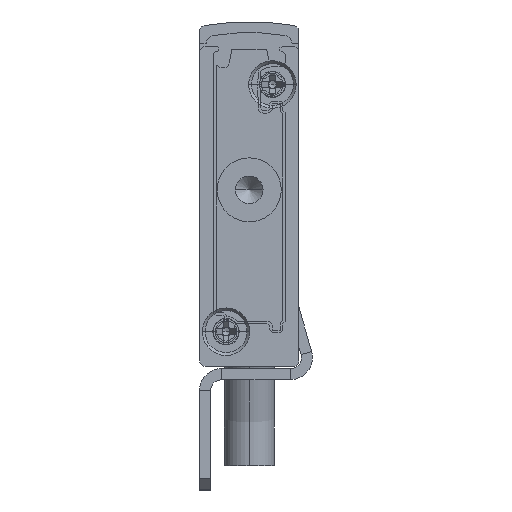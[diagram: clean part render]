
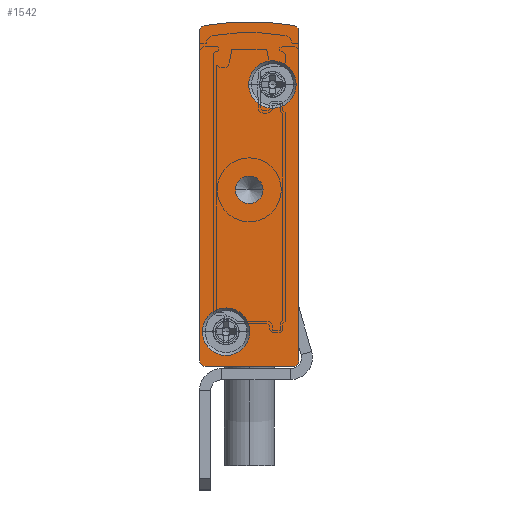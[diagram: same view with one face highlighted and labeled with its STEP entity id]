
A CAD part, front view. The second image highlights one B-rep face of the part: STEP entity #1542.
In plain terms, the highlighted planar face has unit normal (0, -1, 0).
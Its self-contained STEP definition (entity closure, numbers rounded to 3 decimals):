
#413 = FACE_BOUND ( 'NONE', #18770, .T. ) ;
#630 = CIRCLE ( 'NONE', #19547, 0.5 ) ;
#755 = DIRECTION ( 'NONE',  ( -1., 0., 0. ) ) ;
#900 = CARTESIAN_POINT ( 'NONE',  ( -3.25, -2.5, 16. ) ) ;
#1259 = AXIS2_PLACEMENT_3D ( 'NONE', #23008, #11794, #755 ) ;
#1266 = CIRCLE ( 'NONE', #3492, 0.5 ) ;
#1311 = DIRECTION ( 'NONE',  ( 0., 1., 0. ) ) ;
#1458 = EDGE_CURVE ( 'NONE', #12988, #5513, #1266, .T. ) ;
#1518 = DIRECTION ( 'NONE',  ( 1., 0., 0. ) ) ;
#1542 = ADVANCED_FACE ( 'NONE', ( #15726, #413, #6187, #12825 ), #23474, .F. ) ;
#1546 = DIRECTION ( 'NONE',  ( 0., -1., 0. ) ) ;
#1642 = CARTESIAN_POINT ( 'NONE',  ( -5.75, -2.5, 16. ) ) ;
#1732 = EDGE_CURVE ( 'NONE', #13496, #14290, #630, .T. ) ;
#1888 = CARTESIAN_POINT ( 'NONE',  ( -0.5, -2.5, 0. ) ) ;
#2137 = DIRECTION ( 'NONE',  ( 1., 0., 0. ) ) ;
#2429 = LINE ( 'NONE', #5009, #11639 ) ;
#2698 = VERTEX_POINT ( 'NONE', #1642 ) ;
#2838 = AXIS2_PLACEMENT_3D ( 'NONE', #22289, #5625, #16463 ) ;
#2847 = LINE ( 'NONE', #20296, #8942 ) ;
#3043 = VERTEX_POINT ( 'NONE', #18006 ) ;
#3073 = CIRCLE ( 'NONE', #5358, 0.5 ) ;
#3082 = AXIS2_PLACEMENT_3D ( 'NONE', #8901, #21906, #1518 ) ;
#3219 = ORIENTED_EDGE ( 'NONE', *, *, #18640, .T. ) ;
#3482 = ORIENTED_EDGE ( 'NONE', *, *, #11102, .F. ) ;
#3492 = AXIS2_PLACEMENT_3D ( 'NONE', #9630, #23142, #4614 ) ;
#3536 = VERTEX_POINT ( 'NONE', #7162 ) ;
#3668 = DIRECTION ( 'NONE',  ( 0., 1., 0. ) ) ;
#3998 = AXIS2_PLACEMENT_3D ( 'NONE', #11640, #13191, #2137 ) ;
#4218 = AXIS2_PLACEMENT_3D ( 'NONE', #14574, #9193, #12720 ) ;
#4374 = CIRCLE ( 'NONE', #1259, 1.25 ) ;
#4614 = DIRECTION ( 'NONE',  ( -1., 0., 0. ) ) ;
#4870 = VERTEX_POINT ( 'NONE', #16556 ) ;
#5009 = CARTESIAN_POINT ( 'NONE',  ( -8.5, -2.5, 0. ) ) ;
#5090 = DIRECTION ( 'NONE',  ( -1., 0., 0. ) ) ;
#5358 = AXIS2_PLACEMENT_3D ( 'NONE', #20319, #11050, #12905 ) ;
#5513 = VERTEX_POINT ( 'NONE', #8034 ) ;
#5625 = DIRECTION ( 'NONE',  ( 0., 1., 0. ) ) ;
#5744 = DIRECTION ( 'NONE',  ( -1., 0., 0. ) ) ;
#5923 = EDGE_CURVE ( 'NONE', #4870, #18754, #3073, .T. ) ;
#6187 = FACE_OUTER_BOUND ( 'NONE', #13954, .T. ) ;
#6333 = EDGE_CURVE ( 'NONE', #3043, #15289, #13698, .T. ) ;
#7162 = CARTESIAN_POINT ( 'NONE',  ( -8.75, -2.5, 3.15 ) ) ;
#8034 = CARTESIAN_POINT ( 'NONE',  ( -9., -2.5, 0.5 ) ) ;
#8611 = ORIENTED_EDGE ( 'NONE', *, *, #8745, .T. ) ;
#8745 = EDGE_CURVE ( 'NONE', #20437, #2698, #4374, .T. ) ;
#8867 = CARTESIAN_POINT ( 'NONE',  ( -9., -2.5, 30.402 ) ) ;
#8901 = CARTESIAN_POINT ( 'NONE',  ( -2.4, -2.5, 25.55 ) ) ;
#8942 = VECTOR ( 'NONE', #11018, 1000. ) ;
#8988 = EDGE_CURVE ( 'NONE', #12134, #13496, #12957, .T. ) ;
#9193 = DIRECTION ( 'NONE',  ( 0., -1., 0. ) ) ;
#9278 = ORIENTED_EDGE ( 'NONE', *, *, #8988, .F. ) ;
#9388 = CARTESIAN_POINT ( 'NONE',  ( -4.55, -2.5, 25.55 ) ) ;
#9630 = CARTESIAN_POINT ( 'NONE',  ( -8.5, -2.5, 0.5 ) ) ;
#9778 = CIRCLE ( 'NONE', #2838, 1.25 ) ;
#10313 = CARTESIAN_POINT ( 'NONE',  ( -8.5, -2.5, 0. ) ) ;
#10777 = ORIENTED_EDGE ( 'NONE', *, *, #1458, .F. ) ;
#11018 = DIRECTION ( 'NONE',  ( 0., 0., 1. ) ) ;
#11050 = DIRECTION ( 'NONE',  ( 0., 1., 0. ) ) ;
#11102 = EDGE_CURVE ( 'NONE', #18754, #12988, #2429, .T. ) ;
#11637 = CARTESIAN_POINT ( 'NONE',  ( -8.5, -2.5, 30.402 ) ) ;
#11639 = VECTOR ( 'NONE', #5090, 1000. ) ;
#11640 = CARTESIAN_POINT ( 'NONE',  ( -6.6, -2.5, 3.15 ) ) ;
#11794 = DIRECTION ( 'NONE',  ( 0., 1., 0. ) ) ;
#11831 = CARTESIAN_POINT ( 'NONE',  ( -8.592, -2.5, 30.893 ) ) ;
#12037 = AXIS2_PLACEMENT_3D ( 'NONE', #11637, #15198, #20985 ) ;
#12134 = VERTEX_POINT ( 'NONE', #11831 ) ;
#12270 = CARTESIAN_POINT ( 'NONE',  ( -8.5, -2.5, 30.402 ) ) ;
#12474 = EDGE_CURVE ( 'NONE', #15630, #12134, #22656, .T. ) ;
#12607 = DIRECTION ( 'NONE',  ( -1., 0., 0. ) ) ;
#12720 = DIRECTION ( 'NONE',  ( 1., 0., 0. ) ) ;
#12759 = DIRECTION ( 'NONE',  ( 0., 1., 0. ) ) ;
#12825 = FACE_BOUND ( 'NONE', #15160, .T. ) ;
#12905 = DIRECTION ( 'NONE',  ( -1., 0., 0. ) ) ;
#12957 = CIRCLE ( 'NONE', #16784, 23.658 ) ;
#12988 = VERTEX_POINT ( 'NONE', #10313 ) ;
#13191 = DIRECTION ( 'NONE',  ( 0., -1., 0. ) ) ;
#13303 = ORIENTED_EDGE ( 'NONE', *, *, #22847, .F. ) ;
#13390 = LINE ( 'NONE', #20407, #21600 ) ;
#13496 = VERTEX_POINT ( 'NONE', #22834 ) ;
#13698 = CIRCLE ( 'NONE', #3082, 2.15 ) ;
#13954 = EDGE_LOOP ( 'NONE', ( #16503, #17309, #10777, #3482, #22432, #18819, #22469, #9278 ) ) ;
#14290 = VERTEX_POINT ( 'NONE', #19153 ) ;
#14574 = CARTESIAN_POINT ( 'NONE',  ( -2.4, -2.5, 25.55 ) ) ;
#14694 = CARTESIAN_POINT ( 'NONE',  ( -0.5, -2.5, 30.402 ) ) ;
#14745 = ORIENTED_EDGE ( 'NONE', *, *, #15133, .F. ) ;
#15133 = EDGE_CURVE ( 'NONE', #3536, #21218, #19128, .T. ) ;
#15160 = EDGE_LOOP ( 'NONE', ( #3219, #8611 ) ) ;
#15198 = DIRECTION ( 'NONE',  ( 0., 1., 0. ) ) ;
#15289 = VERTEX_POINT ( 'NONE', #9388 ) ;
#15630 = VERTEX_POINT ( 'NONE', #8867 ) ;
#15726 = FACE_BOUND ( 'NONE', #23239, .T. ) ;
#16272 = ORIENTED_EDGE ( 'NONE', *, *, #20725, .F. ) ;
#16415 = CARTESIAN_POINT ( 'NONE',  ( -6.6, -2.5, 3.15 ) ) ;
#16463 = DIRECTION ( 'NONE',  ( -1., 0., 0. ) ) ;
#16503 = ORIENTED_EDGE ( 'NONE', *, *, #12474, .F. ) ;
#16556 = CARTESIAN_POINT ( 'NONE',  ( 0., -2.5, 0.5 ) ) ;
#16784 = AXIS2_PLACEMENT_3D ( 'NONE', #23947, #12759, #12607 ) ;
#17309 = ORIENTED_EDGE ( 'NONE', *, *, #18716, .F. ) ;
#17348 = CARTESIAN_POINT ( 'NONE',  ( -4.45, -2.5, 3.15 ) ) ;
#17682 = AXIS2_PLACEMENT_3D ( 'NONE', #16415, #1546, #22098 ) ;
#17737 = ORIENTED_EDGE ( 'NONE', *, *, #6333, .F. ) ;
#17944 = AXIS2_PLACEMENT_3D ( 'NONE', #12270, #1311, #19852 ) ;
#18006 = CARTESIAN_POINT ( 'NONE',  ( -0.25, -2.5, 25.55 ) ) ;
#18640 = EDGE_CURVE ( 'NONE', #2698, #20437, #9778, .T. ) ;
#18716 = EDGE_CURVE ( 'NONE', #5513, #15630, #2847, .T. ) ;
#18754 = VERTEX_POINT ( 'NONE', #1888 ) ;
#18770 = EDGE_LOOP ( 'NONE', ( #16272, #14745 ) ) ;
#18819 = ORIENTED_EDGE ( 'NONE', *, *, #23646, .F. ) ;
#19128 = CIRCLE ( 'NONE', #17682, 2.15 ) ;
#19153 = CARTESIAN_POINT ( 'NONE',  ( 0., -2.5, 30.402 ) ) ;
#19547 = AXIS2_PLACEMENT_3D ( 'NONE', #14694, #3668, #5744 ) ;
#19852 = DIRECTION ( 'NONE',  ( -1., 0., 0. ) ) ;
#20296 = CARTESIAN_POINT ( 'NONE',  ( -9., -2.5, 30.402 ) ) ;
#20319 = CARTESIAN_POINT ( 'NONE',  ( -0.5, -2.5, 0.5 ) ) ;
#20407 = CARTESIAN_POINT ( 'NONE',  ( 0., -2.5, 30.402 ) ) ;
#20437 = VERTEX_POINT ( 'NONE', #900 ) ;
#20725 = EDGE_CURVE ( 'NONE', #21218, #3536, #23816, .T. ) ;
#20985 = DIRECTION ( 'NONE',  ( -1., 0., 0. ) ) ;
#21218 = VERTEX_POINT ( 'NONE', #17348 ) ;
#21600 = VECTOR ( 'NONE', #23936, 1000. ) ;
#21906 = DIRECTION ( 'NONE',  ( 0., -1., 0. ) ) ;
#22098 = DIRECTION ( 'NONE',  ( 1., 0., 0. ) ) ;
#22289 = CARTESIAN_POINT ( 'NONE',  ( -4.5, -2.5, 16. ) ) ;
#22432 = ORIENTED_EDGE ( 'NONE', *, *, #5923, .F. ) ;
#22469 = ORIENTED_EDGE ( 'NONE', *, *, #1732, .F. ) ;
#22656 = CIRCLE ( 'NONE', #12037, 0.5 ) ;
#22834 = CARTESIAN_POINT ( 'NONE',  ( -0.408, -2.5, 30.893 ) ) ;
#22847 = EDGE_CURVE ( 'NONE', #15289, #3043, #23678, .T. ) ;
#23008 = CARTESIAN_POINT ( 'NONE',  ( -4.5, -2.5, 16. ) ) ;
#23142 = DIRECTION ( 'NONE',  ( 0., 1., 0. ) ) ;
#23239 = EDGE_LOOP ( 'NONE', ( #17737, #13303 ) ) ;
#23474 = PLANE ( 'NONE',  #17944 ) ;
#23646 = EDGE_CURVE ( 'NONE', #14290, #4870, #13390, .T. ) ;
#23678 = CIRCLE ( 'NONE', #4218, 2.15 ) ;
#23816 = CIRCLE ( 'NONE', #3998, 2.15 ) ;
#23936 = DIRECTION ( 'NONE',  ( 0., 0., -1. ) ) ;
#23947 = CARTESIAN_POINT ( 'NONE',  ( -4.5, -2.5, 7.592 ) ) ;
